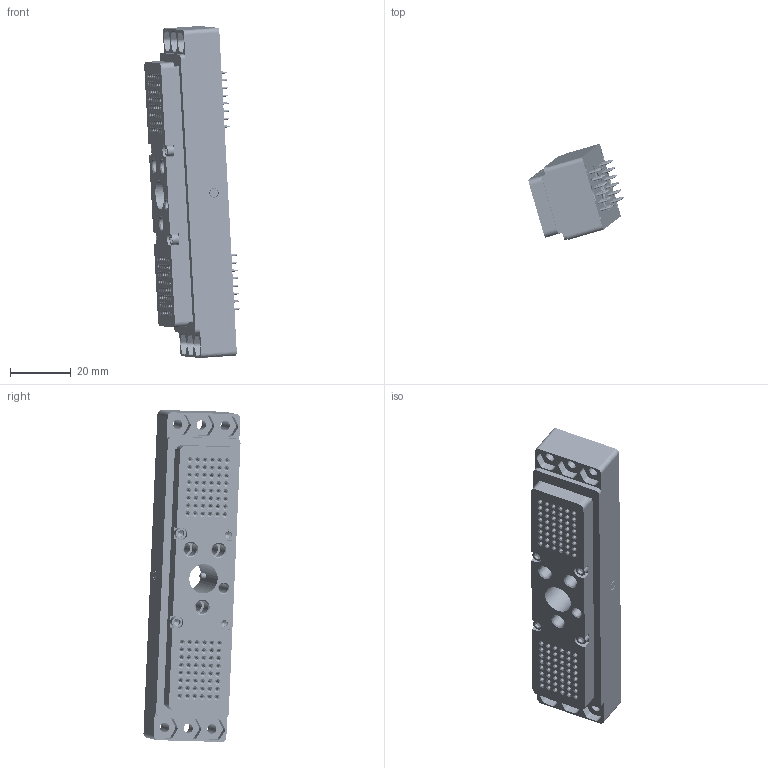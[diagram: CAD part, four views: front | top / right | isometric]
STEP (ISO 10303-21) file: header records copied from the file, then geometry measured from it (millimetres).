
FILE_DESCRIPTION((''),'2;1');
FILE_NAME('C:\old_Drawings\shrinkwrapped website .stp files\5512721-STP.stp','2011-10-26T10:19:08',('GaryRobinson'),(''),'Autodesk Inventor 2011','Autodesk Inventor 2011','');
FILE_SCHEMA(('AUTOMOTIVE_DESIGN { 1 0 10303 214 1 1 1 1 }'));
Length unit declared in the file: inch
Products named in the file (1): 5512721-STP
Bounding box: 31.41 x 31.92 x 109.2 mm (x, y, z)
Surface area: 41080.6 mm2 (no closed solid volume)
Topology: 0 solids, 112 shells, 5206 faces, 12993 edges, 8268 vertices
Faces by surface type: plane 2205, cylinder 1563, cone 805, bspline 345, torus 288
Full cylindrical faces by diameter (mm): 0.005 x4, 0.66 x96, 0.787 x96, 1.016 x96, 1.499 x96, 1.651 x96, 1.702 x192, 1.93 x2, 1.981 x2, 2.184 x4, 2.286 x4, 2.438 x4, 2.778 x2, 3.175 x9, 3.505 x1, 3.556 x4, 4.318 x6, 4.572 x3, 5.791 x6, 5.994 x2, 9.703 x2
Entity records: 158268 total; most frequent: CARTESIAN_POINT 37381, DIRECTION 24879, ORIENTED_EDGE 21164, EDGE_CURVE 10582, AXIS2_PLACEMENT_3D 9787, EDGE_LOOP 7511, VERTEX_POINT 7477, VECTOR 5305
